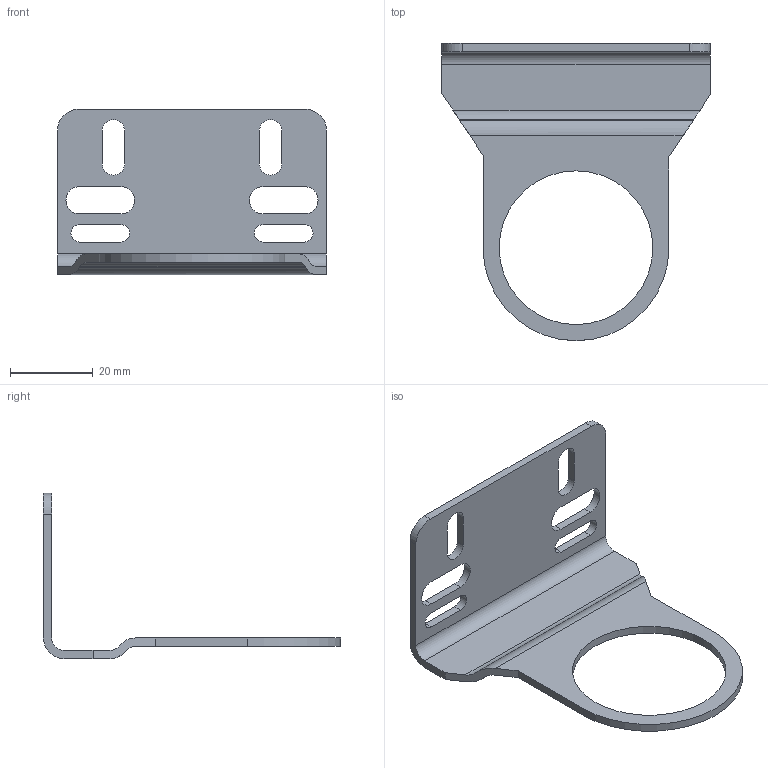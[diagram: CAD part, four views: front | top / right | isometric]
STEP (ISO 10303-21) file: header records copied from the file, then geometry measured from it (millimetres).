
FILE_DESCRIPTION((''),'2;1');
FILE_NAME('K:\ZEICHNG\webgrafik.intern\Air-Techniques Befestigungen und Behälter\step\KBW.1-1227.stp','2013-06-18T13:11:05',('RJanz'),(''),'Autodesk Inventor 2013','Autodesk Inventor 2013','');
FILE_SCHEMA(('CONFIG_CONTROL_DESIGN'));
Length unit declared in the file: millimetre
Products named in the file (1): 10009666
Bounding box: 65 x 71.9 x 40 mm (x, y, z)
Volume: 8560.3 mm3; surface area: 9843.6 mm2
Topology: 1 solids, 1 shells, 49 faces, 141 edges, 94 vertices
Faces by surface type: plane 27, cylinder 22
Full cylindrical faces by diameter (mm): 37.2 x1
Entity records: 1668 total; most frequent: CARTESIAN_POINT 284, DIRECTION 284, ORIENTED_EDGE 280, EDGE_CURVE 140, VECTOR 96, LINE 96, AXIS2_PLACEMENT_3D 94, VERTEX_POINT 94
